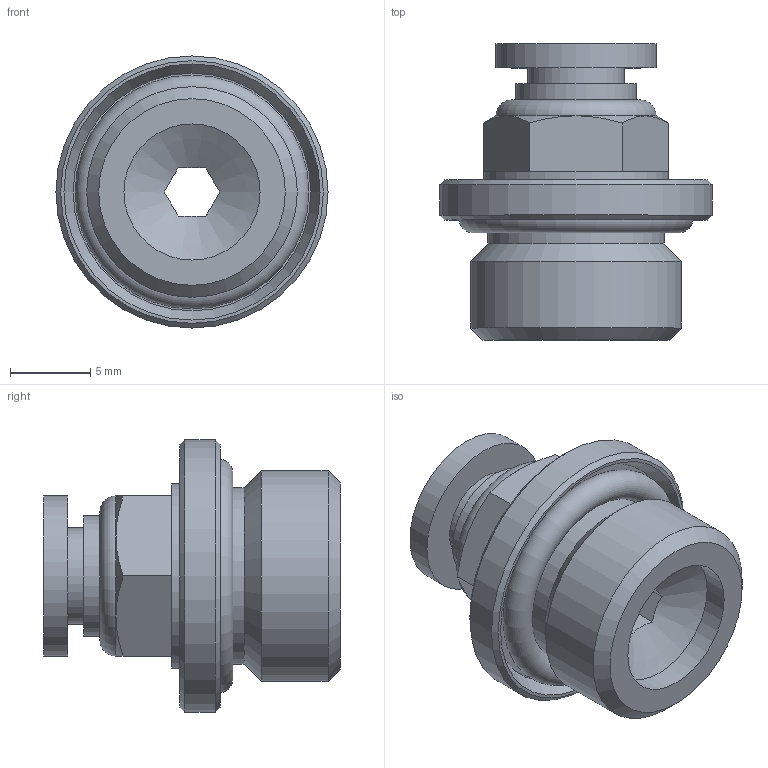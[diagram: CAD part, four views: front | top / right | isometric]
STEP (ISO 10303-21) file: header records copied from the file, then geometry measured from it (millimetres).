
FILE_DESCRIPTION(/* description */ (''),/* implementation_level */ '2;1');
FILE_NAME(/* name */ 'S:\_Tecnico\ArchivioUT\DISEGNI\DISEGNI 3D per ingombri\RP\RP 51\RP511404.stp',/* time_stamp */ '2019-04-16T13:49:21+02:00',/* author */ ('UfficioTecnico'),/* organization */ (''),/* preprocessor_version */ 'ST-DEVELOPER v16.1',/* originating_system */ 'Autodesk Inventor 2016',/* authorisation */ '');
FILE_SCHEMA (('AUTOMOTIVE_DESIGN { 1 0 10303 214 3 1 1 }'));
Length unit declared in the file: millimetre
Products named in the file (1): RP511404
Bounding box: 17 x 18.5 x 17 mm (x, y, z)
Volume: 1695.1 mm3; surface area: 1759.5 mm2
Topology: 1 solids, 3 shells, 59 faces, 126 edges, 77 vertices
Faces by surface type: plane 34, cone 12, cylinder 10, torus 3
Full cylindrical faces by diameter (mm): 4 x1, 6 x1, 7.5 x1, 8.5 x1, 10 x1, 11 x2, 11.5 x1, 13.157 x1, 17 x1
Entity records: 1465 total; most frequent: CARTESIAN_POINT 284, DIRECTION 242, ORIENTED_EDGE 210, EDGE_CURVE 103, AXIS2_PLACEMENT_3D 103, EDGE_LOOP 88, VERTEX_POINT 73, FACE_OUTER_BOUND 59
